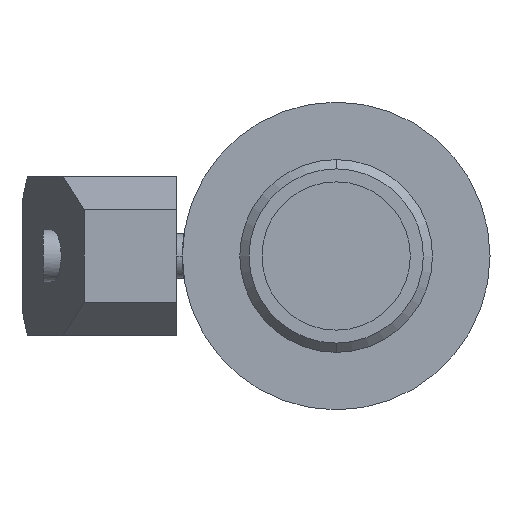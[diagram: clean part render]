
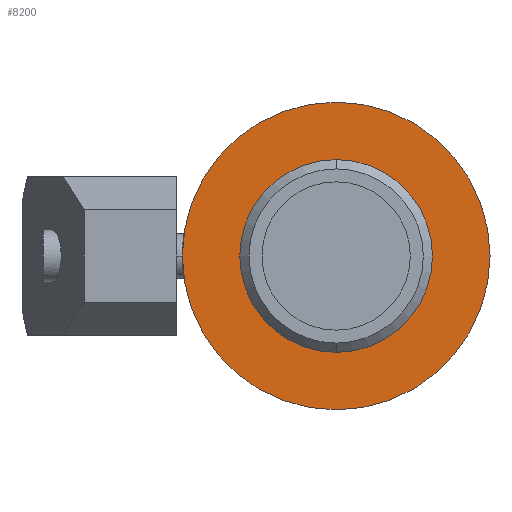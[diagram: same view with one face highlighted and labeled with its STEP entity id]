
A CAD part, left-side view. The second image highlights one B-rep face of the part: STEP entity #8200.
In plain terms, the highlighted planar face has unit normal (-1, 0, 0) as drawn and (1, 0, 0) by its records, which use the part's own axes.
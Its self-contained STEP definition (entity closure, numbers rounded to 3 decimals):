
#3130=CARTESIAN_POINT('',(-86.931,-28.723,
0.));
#3140=VERTEX_POINT('',#3130);
#3170=CARTESIAN_POINT('',(-86.931,12.777,0.));
#3180=DIRECTION('',(-1.,0.,0.));
#3190=DIRECTION('',(0.,1.,0.));
#3200=AXIS2_PLACEMENT_3D('',#3170,#3180,#3190);
#3210=CIRCLE('',#3200,41.5);
#3220=CARTESIAN_POINT('',(-86.931,54.277,0.));
#3230=VERTEX_POINT('',#3220);
#3240=EDGE_CURVE('',#3230,#3140,#3210,.T.);
#7950=CARTESIAN_POINT('',(-86.931,51.927,0.));
#7960=DIRECTION('',(1.,0.,0.));
#7970=DIRECTION('',(0.,1.,0.));
#7980=AXIS2_PLACEMENT_3D('',#7950,#7960,#7970);
#7990=PLANE('',#7980);
#8000=ORIENTED_EDGE('',*,*,#3240,.F.);
#8010=EDGE_CURVE('',#3140,#3230,#3210,.T.);
#8020=ORIENTED_EDGE('',*,*,#8010,.F.);
#8030=EDGE_LOOP('',(#8020,#8000));
#8040=FACE_OUTER_BOUND('',#8030,.T.);
#8050=CARTESIAN_POINT('',(-86.931,12.777,0.));
#8060=DIRECTION('',(-1.,0.,0.));
#8070=DIRECTION('',(0.,-1.,0.));
#8080=AXIS2_PLACEMENT_3D('',#8050,#8060,#8070);
#8090=CIRCLE('',#8080,23.5);
#8100=CARTESIAN_POINT('',(-86.931,-10.723,0.));
#8110=VERTEX_POINT('',#8100);
#8120=CARTESIAN_POINT('',(-86.931,36.277,0.));
#8130=VERTEX_POINT('',#8120);
#8140=EDGE_CURVE('',#8110,#8130,#8090,.T.);
#8150=ORIENTED_EDGE('',*,*,#8140,.T.);
#8160=EDGE_CURVE('',#8130,#8110,#8090,.T.);
#8170=ORIENTED_EDGE('',*,*,#8160,.T.);
#8180=EDGE_LOOP('',(#8170,#8150));
#8190=FACE_BOUND('',#8180,.T.);
#8200=ADVANCED_FACE('',(#8040,#8190),#7990,.T.);
